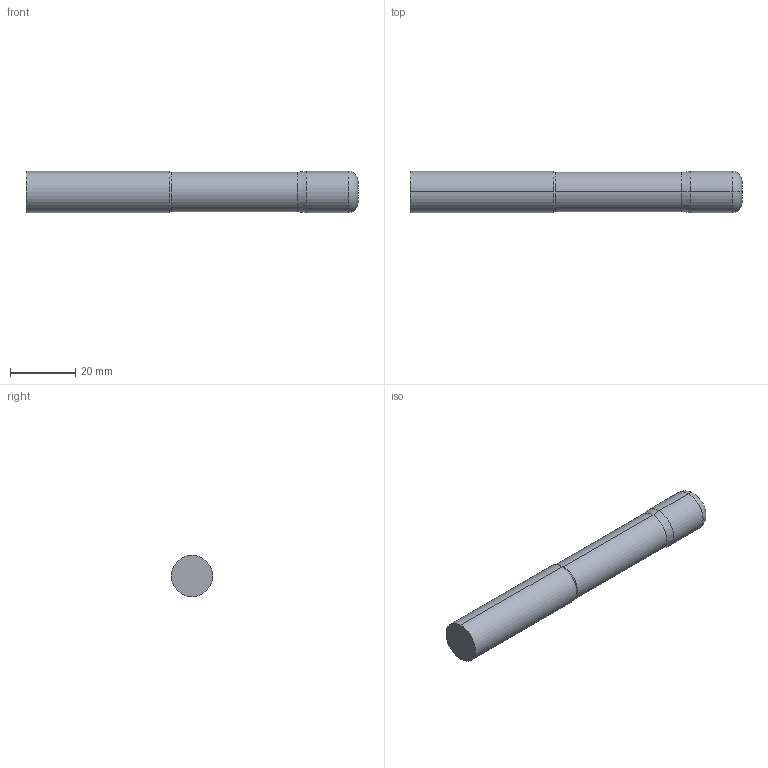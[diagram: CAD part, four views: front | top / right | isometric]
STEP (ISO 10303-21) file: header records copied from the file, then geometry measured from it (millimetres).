
FILE_DESCRIPTION (( 'STEP AP214' ), '1' );
FILE_NAME ('SSIRNM70500-120.STEP', '2025-05-30T14:54:51', ( '' ), ( '' ), 'SwSTEP 2.0', 'SolidWorks 2023', '' );
FILE_SCHEMA (( 'AUTOMOTIVE_DESIGN' ));
Length unit declared in the file: inch
Products named in the file (3): SSI7 Shank Only_SSIRNM70500-120; SSIRNM70500-120; SSI7 Cut Only_SSIRNM70500-120
Assembly tree (2 placements, depth 2):
  SSIRNM70500-120
    SSI7 Cut Only_SSIRNM70500-120
    SSI7 Shank Only_SSIRNM70500-120
Bounding box: 101.6 x 12.7 x 12.7 mm (x, y, z)
Volume: 12302 mm3; surface area: 4427.8 mm2
Topology: 2 solids, 2 shells, 16 faces, 28 edges, 16 vertices
Faces by surface type: cylinder 6, plane 4, cone 4, torus 2
Entity records: 484 total; most frequent: DIRECTION 88, CARTESIAN_POINT 65, ORIENTED_EDGE 56, AXIS2_PLACEMENT_3D 39, EDGE_CURVE 28, CIRCLE 18, EDGE_LOOP 16, VERTEX_POINT 16
